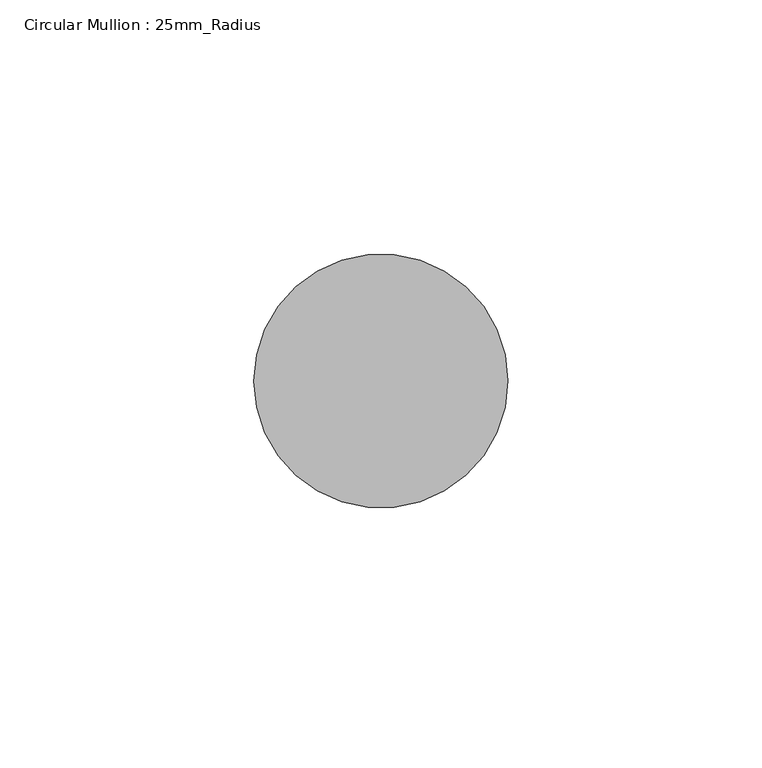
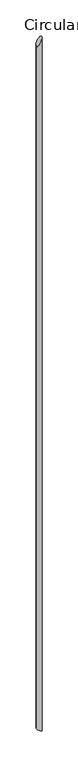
"""IFC4 building model written with IfcOpenShell, lengths in millimetres: member geometry, Circular Mullion : 25mm_Radius."""

from ifc_helpers import new_model, si_unit, frame, origin, place, context, project, spatial, ellipse_curve, source, transform, mapped, element, save
from ifc_brep_helpers import plane_surface, cylinder_surface, advanced_brep


def circular_mullion_25mm_radius_aefd53d2(model_context):
    return source(origin(), model_context, "Body", "AdvancedBrep", [
        advanced_brep(
        [(-50.0, 0.0, -83.0534709), (0.0, 0.0, 0.0), (0.0, 0.0, -6846.3993203), (-50.0, 0.0, -6816.1166312)],
        [
            (0, 1, ellipse_curve(frame((-25.0, 0.0, -41.5267355), z_axis=(0.8567278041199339, 0.0, -0.5157688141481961), x_axis=(0.5157688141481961, 0.0, 0.8567278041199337)), 48.4713292, 25.0)),
            (1, 2),
            (2, 3, ellipse_curve(frame((-25.0, 0.0, -6831.2579758), z_axis=(0.5180471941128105, 0.0, 0.8553520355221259), x_axis=(-0.855352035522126, 0.0, 0.5180471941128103)), 29.2277319, 25.0)),
            (3, 0),
            (1, 0, ellipse_curve(frame((-25.0, 0.0, -41.5267355), z_axis=(0.8567278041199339, 0.0, -0.5157688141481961), x_axis=(0.5157688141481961, 0.0, 0.8567278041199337)), 48.4713292, 25.0)),
            (3, 2, ellipse_curve(frame((-25.0, 0.0, -6831.2579758), z_axis=(0.5180471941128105, 0.0, 0.8553520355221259), x_axis=(-0.855352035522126, 0.0, 0.5180471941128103)), 29.2277319, 25.0)),
        ],
        [
            cylinder_surface(frame((-25.0, 0.0, 0.0), z_axis=(0.0, 0.0, 1.0), x_axis=(1.0, 0.0, 0.0)), 25.0),
            plane_surface(frame((0.0, -304.8, 0.0), z_axis=(-0.8567278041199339, 0.0, 0.5157688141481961), x_axis=(-0.5157688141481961, 0.0, -0.8567278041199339))),
            plane_surface(frame((0.0, -304.8, -6846.3993203), z_axis=(-0.5180471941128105, 0.0, -0.8553520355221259), x_axis=(-0.8553520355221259, 0.0, 0.5180471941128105))),
        ],
        [
            (0, [[1, 2, 3, 4]]),
            (0, [[5, -4, 6, -2]]),
            (1, [[-1, -5]]),
            (2, [[-6, -3]]),
        ],
    ),
    ])


if __name__ == "__main__":
    model = new_model("IFC4")
    model_context = context("Model", 3, world=origin())
    ifc_project = project(units=[si_unit("LENGTHUNIT", "METRE", prefix="MILLI")], contexts=[model_context])
    site = spatial("IfcSite", under=ifc_project)
    building = spatial("IfcBuilding", under=site)
    placement = place(None, origin())
    circular_mullion_25mm_radius_shape = circular_mullion_25mm_radius_aefd53d2(model_context)
    element("IfcMember", 1, ObjectType="Circular Mullion : 25mm_Radius", at=placement, inside=building, context=model_context, shape_type="MappedRepresentation", body=[
        mapped(circular_mullion_25mm_radius_shape, transform((0.0, 0.0, 0.0), x_axis=(1.0, 0.0, 0.0), y_axis=(0.0, 1.0, 0.0), z_axis=(0.0, 0.0, 1.0))),
    ])
    save(model, "model.ifc")
